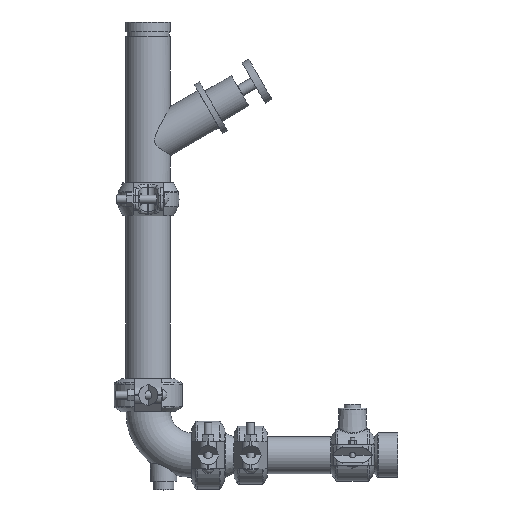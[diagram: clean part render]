
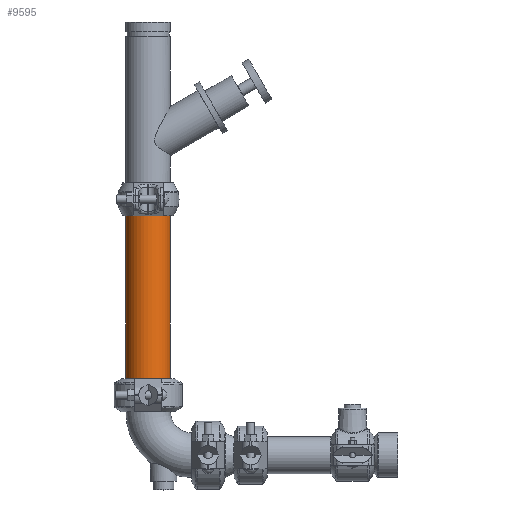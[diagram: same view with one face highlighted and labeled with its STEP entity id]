
A CAD part, top view. The second image highlights one B-rep face of the part: STEP entity #9595.
In plain terms, the highlighted cylindrical face has radius 36.513 mm (diameter 73.025 mm), a full revolution.
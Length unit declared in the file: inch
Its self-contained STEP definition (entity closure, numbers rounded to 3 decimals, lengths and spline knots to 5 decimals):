
#422=CYLINDRICAL_SURFACE('',#10714,1.4375);
#1302=LINE('',#16643,#1953);
#1953=VECTOR('',#13054,1.4375);
#2497=FACE_OUTER_BOUND('',#3061,.T.);
#3061=EDGE_LOOP('',(#7909,#7910,#7911,#7912,#7913,#7914));
#3599=CIRCLE('',#10712,1.4375);
#3600=CIRCLE('',#10713,1.4375);
#3601=CIRCLE('',#10715,1.4375);
#3602=CIRCLE('',#10716,1.4375);
#4386=VERTEX_POINT('',#16634);
#4387=VERTEX_POINT('',#16635);
#4388=VERTEX_POINT('',#16639);
#4389=VERTEX_POINT('',#16640);
#5608=EDGE_CURVE('',#4386,#4387,#3599,.T.);
#5609=EDGE_CURVE('',#4387,#4386,#3600,.T.);
#5610=EDGE_CURVE('',#4388,#4389,#3601,.T.);
#5611=EDGE_CURVE('',#4389,#4388,#3602,.T.);
#5612=EDGE_CURVE('',#4389,#4387,#1302,.T.);
#7909=ORIENTED_EDGE('',*,*,#5610,.F.);
#7910=ORIENTED_EDGE('',*,*,#5611,.F.);
#7911=ORIENTED_EDGE('',*,*,#5612,.T.);
#7912=ORIENTED_EDGE('',*,*,#5609,.T.);
#7913=ORIENTED_EDGE('',*,*,#5608,.T.);
#7914=ORIENTED_EDGE('',*,*,#5612,.F.);
#9595=ADVANCED_FACE('',(#2497),#422,.T.);
#10712=AXIS2_PLACEMENT_3D('',#16636,#13044,#13045);
#10713=AXIS2_PLACEMENT_3D('',#16637,#13046,#13047);
#10714=AXIS2_PLACEMENT_3D('',#16638,#13048,#13049);
#10715=AXIS2_PLACEMENT_3D('',#16641,#13050,#13051);
#10716=AXIS2_PLACEMENT_3D('',#16642,#13052,#13053);
#13044=DIRECTION('center_axis',(1.,0.,0.));
#13045=DIRECTION('ref_axis',(0.,0.,-1.));
#13046=DIRECTION('center_axis',(1.,0.,0.));
#13047=DIRECTION('ref_axis',(0.,0.,-1.));
#13048=DIRECTION('center_axis',(1.,0.,0.));
#13049=DIRECTION('ref_axis',(0.,1.,0.));
#13050=DIRECTION('center_axis',(1.,0.,0.));
#13051=DIRECTION('ref_axis',(0.,0.,-1.));
#13052=DIRECTION('center_axis',(1.,0.,0.));
#13053=DIRECTION('ref_axis',(0.,0.,-1.));
#13054=DIRECTION('',(-1.,0.,0.));
#16634=CARTESIAN_POINT('',(-5.266,1.4375,0.));
#16635=CARTESIAN_POINT('',(-5.266,-1.4375,0.));
#16636=CARTESIAN_POINT('Origin',(-5.266,0.,0.));
#16637=CARTESIAN_POINT('Origin',(-5.266,0.,0.));
#16638=CARTESIAN_POINT('Origin',(0.,0.,0.));
#16639=CARTESIAN_POINT('',(5.266,1.4375,0.));
#16640=CARTESIAN_POINT('',(5.266,-1.4375,0.));
#16641=CARTESIAN_POINT('Origin',(5.266,0.,0.));
#16642=CARTESIAN_POINT('Origin',(5.266,0.,0.));
#16643=CARTESIAN_POINT('',(0.,-1.4375,0.));
